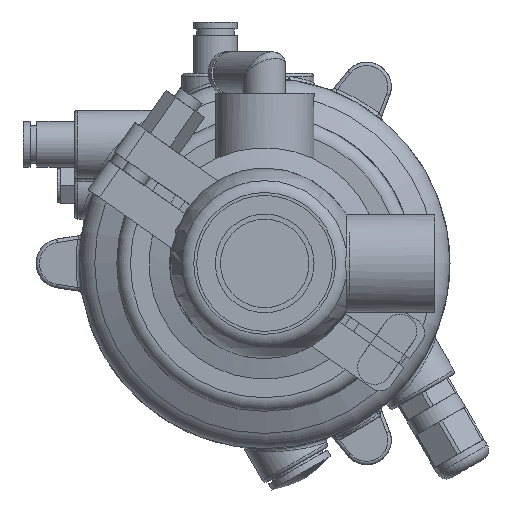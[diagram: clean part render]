
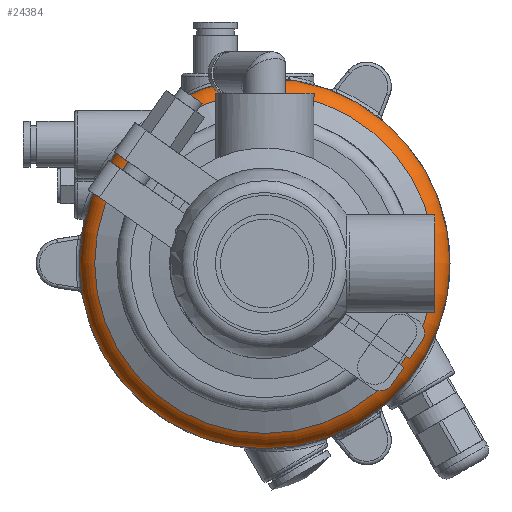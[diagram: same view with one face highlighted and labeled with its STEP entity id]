
A CAD part, front view. The second image highlights one B-rep face of the part: STEP entity #24384.
In plain terms, the highlighted toroidal (fillet/blend) face has major radius 46.5 mm and minor radius 8 mm.
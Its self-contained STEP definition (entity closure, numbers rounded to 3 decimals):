
#2767 = CARTESIAN_POINT ( 'NONE',  ( 0., 14.022, 0. ) ) ;
#4747 = EDGE_LOOP ( 'NONE', ( #49093 ) ) ;
#4864 = CARTESIAN_POINT ( 'NONE',  ( 0., 6.832, -50.007 ) ) ;
#4997 = AXIS2_PLACEMENT_3D ( 'NONE', #2767, #40327, #39725 ) ;
#6763 = CARTESIAN_POINT ( 'NONE',  ( 0., 14.022, 0. ) ) ;
#7683 = CIRCLE ( 'NONE', #51525, 54.5 ) ;
#9453 = ORIENTED_EDGE ( 'NONE', *, *, #53770, .T. ) ;
#10514 = DIRECTION ( 'NONE',  ( 0., 0., -1. ) ) ;
#11662 = FACE_OUTER_BOUND ( 'NONE', #37709, .T. ) ;
#11724 = CARTESIAN_POINT ( 'NONE',  ( 0., 14.022, -54.5 ) ) ;
#12218 = DIRECTION ( 'NONE',  ( 0., 0., -1. ) ) ;
#13119 = VERTEX_POINT ( 'NONE', #4864 ) ;
#13863 = EDGE_CURVE ( 'NONE', #13119, #13119, #22789, .T. ) ;
#15677 = DIRECTION ( 'NONE',  ( 0., -1., 0. ) ) ;
#21486 = VERTEX_POINT ( 'NONE', #11724 ) ;
#22789 = CIRCLE ( 'NONE', #33480, 50.007 ) ;
#24384 = ADVANCED_FACE ( 'NONE', ( #11662, #54034 ), #31288, .T. ) ;
#25678 = DIRECTION ( 'NONE',  ( 0., -1., 0. ) ) ;
#31288 = TOROIDAL_SURFACE ( 'NONE', #4997, 46.5, 8. ) ;
#33480 = AXIS2_PLACEMENT_3D ( 'NONE', #38588, #15677, #10514 ) ;
#37709 = EDGE_LOOP ( 'NONE', ( #9453 ) ) ;
#38588 = CARTESIAN_POINT ( 'NONE',  ( 0., 6.832, 0. ) ) ;
#39725 = DIRECTION ( 'NONE',  ( 0., 0., -1. ) ) ;
#40327 = DIRECTION ( 'NONE',  ( 0., -1., 0. ) ) ;
#49093 = ORIENTED_EDGE ( 'NONE', *, *, #13863, .F. ) ;
#51525 = AXIS2_PLACEMENT_3D ( 'NONE', #6763, #25678, #12218 ) ;
#53770 = EDGE_CURVE ( 'NONE', #21486, #21486, #7683, .T. ) ;
#54034 = FACE_OUTER_BOUND ( 'NONE', #4747, .T. ) ;
